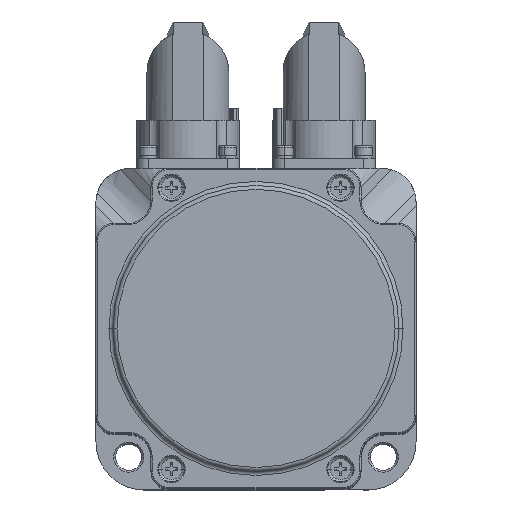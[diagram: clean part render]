
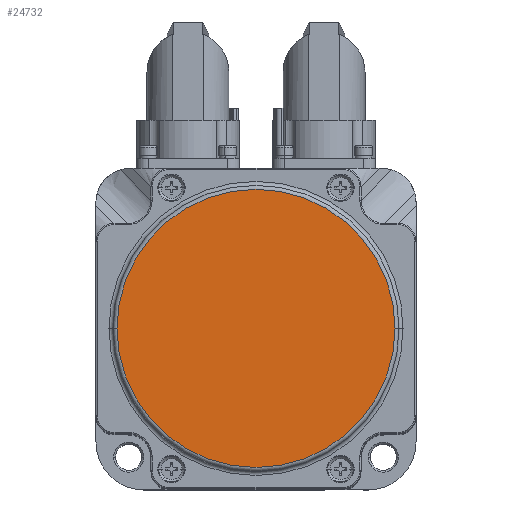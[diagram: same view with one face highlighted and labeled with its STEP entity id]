
A CAD part, top view. The second image highlights one B-rep face of the part: STEP entity #24732.
In plain terms, the highlighted planar face has unit normal (0, 0, 1).
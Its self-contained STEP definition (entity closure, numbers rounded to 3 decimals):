
#19851 = ORIENTED_EDGE ( 'NONE', *, *, #29826, .T. ) ;
#19853 = ORIENTED_EDGE ( 'NONE', *, *, #29423, .T. ) ;
#24732 = ADVANCED_FACE ( 'NONE', ( #63011 ), #65667, .T. ) ;
#29423 = EDGE_CURVE ( 'NONE', #37319, #34101, #42316, .T. ) ;
#29826 = EDGE_CURVE ( 'NONE', #34101, #37319, #42833, .T. ) ;
#34101 = VERTEX_POINT ( 'NONE', #60074 ) ;
#37319 = VERTEX_POINT ( 'NONE', #60530 ) ;
#39080 = CARTESIAN_POINT ( 'NONE',  ( 0., 0., 6.5 ) ) ;
#39082 = DIRECTION ( 'NONE',  ( 0., 0., 1. ) ) ;
#39084 = DIRECTION ( 'NONE',  ( 1., 0., 0. ) ) ;
#40477 = AXIS2_PLACEMENT_3D ( 'NONE', #65668, #65669, #65670 ) ;
#42316 = CIRCLE ( 'NONE', #42317, 34.75 ) ;
#42317 = AXIS2_PLACEMENT_3D ( 'NONE', #39080, #39082, #39084 ) ;
#42833 = CIRCLE ( 'NONE', #42834, 34.75 ) ;
#42834 = AXIS2_PLACEMENT_3D ( 'NONE', #49223, #49225, #49226 ) ;
#49223 = CARTESIAN_POINT ( 'NONE',  ( 0., 0., 6.5 ) ) ;
#49225 = DIRECTION ( 'NONE',  ( 0., 0., 1. ) ) ;
#49226 = DIRECTION ( 'NONE',  ( 1., 0., 0. ) ) ;
#49778 = EDGE_LOOP ( 'NONE', ( #19851, #19853 ) ) ;
#60074 = CARTESIAN_POINT ( 'NONE',  ( 34.75, 0., 6.5 ) ) ;
#60530 = CARTESIAN_POINT ( 'NONE',  ( -34.75, 0., 6.5 ) ) ;
#63011 = FACE_OUTER_BOUND ( 'NONE', #49778, .T. ) ;
#65667 = PLANE ( 'NONE',  #40477 ) ;
#65668 = CARTESIAN_POINT ( 'NONE',  ( 0., 0., 6.5 ) ) ;
#65669 = DIRECTION ( 'NONE',  ( 0., 0., 1. ) ) ;
#65670 = DIRECTION ( 'NONE',  ( 1., 0., 0. ) ) ;
